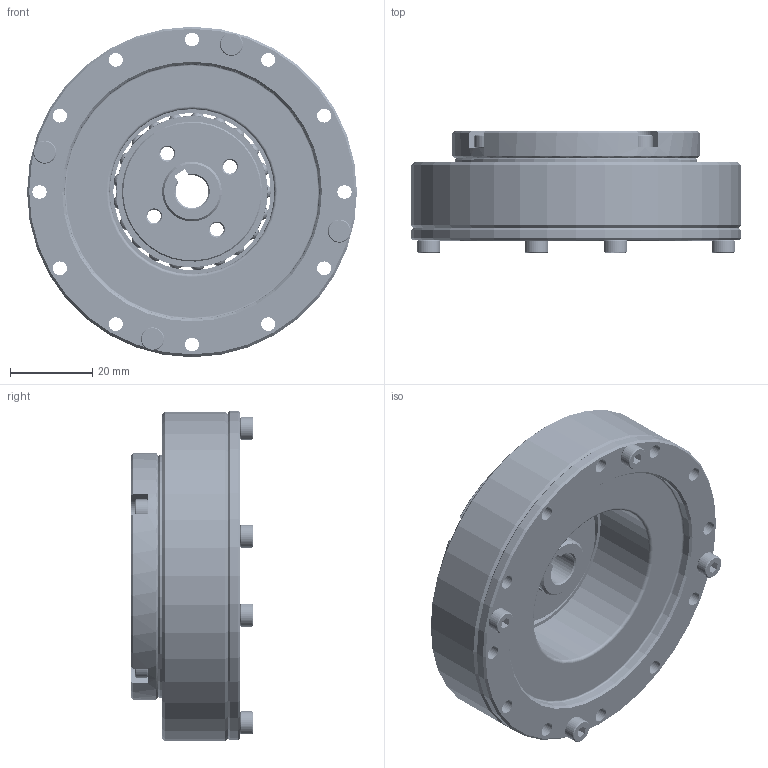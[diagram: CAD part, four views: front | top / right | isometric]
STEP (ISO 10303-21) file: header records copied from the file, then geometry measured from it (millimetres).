
FILE_DESCRIPTION(/* description */ (''),/* implementation_level */ '2;1');
FILE_NAME(/* name */ 'XBF17成品图.prt.stp',/* time_stamp */ '2022-07-23T09:35:59+08:00',/* author */ (''),/* organization */ (''),/* preprocessor_version */ 'ST-DEVELOPER v16',/* originating_system */ 'SIEMENS PLM Software NX 10.0',/* authorisation */ '');
FILE_SCHEMA (('CONFIG_CONTROL_DESIGN'));
Products named in the file (11): 17-柔性轴承保持架（国标）; XBS17-3-1凸轮; M3X10; XBF17-1钢轮; M2X6; XBK17-4-1-1销子; XBK17-4-1内芯; G59685; XBK17-4-2外圈; 17-柔性轴承（国标）_MODEL; XBF17成品图
Assembly tree (17 placements, depth 3):
  XBF17成品图
    XBK17-4-2外圈
    G59685
    XBK17-4-1内芯
    XBK17-4-1-1销子
    M2X6
    XBF17-1钢轮
    M3X10  x8
    17-柔性轴承（国标）_MODEL
      17-柔性轴承保持架（国标）
    XBS17-3-1凸轮
Bounding box: 80 x 29.5 x 80.2 mm (x, y, z)
Volume: 72734 mm3; surface area: 62595.9 mm2
Topology: 40 solids, 40 shells, 825 faces, 2163 edges, 1441 vertices
Faces by surface type: plane 324, cylinder 233, bspline 102, cone 97, extrusion 42, sphere 21, torus 6
Full cylindrical faces by diameter (mm): 2.3 x1, 2.5 x4, 2.7 x33, 3.5 x48, 4 x2, 5.6 x8, 14.5 x1, 29 x1, 30 x1, 31 x1, 32 x2, 33.1 x1, 34 x1, 36.7 x1, 38.2 x2, 40 x2, 41.4 x1, 44 x2, 47 x2, 47.5 x1, 49 x1, 53 x1, 58.9 x1, 59 x1, 60 x1, 60.5 x2, 62 x1, 63 x1, 64.1 x1, 66 x1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
Entity records: 128149 total; most frequent: CARTESIAN_POINT 112838, ORIENTED_EDGE 2810, DIRECTION 2405, EDGE_CURVE 1405, VERTEX_POINT 1044, EDGE_LOOP 978, AXIS2_PLACEMENT_3D 957, ADVANCED_FACE 651
